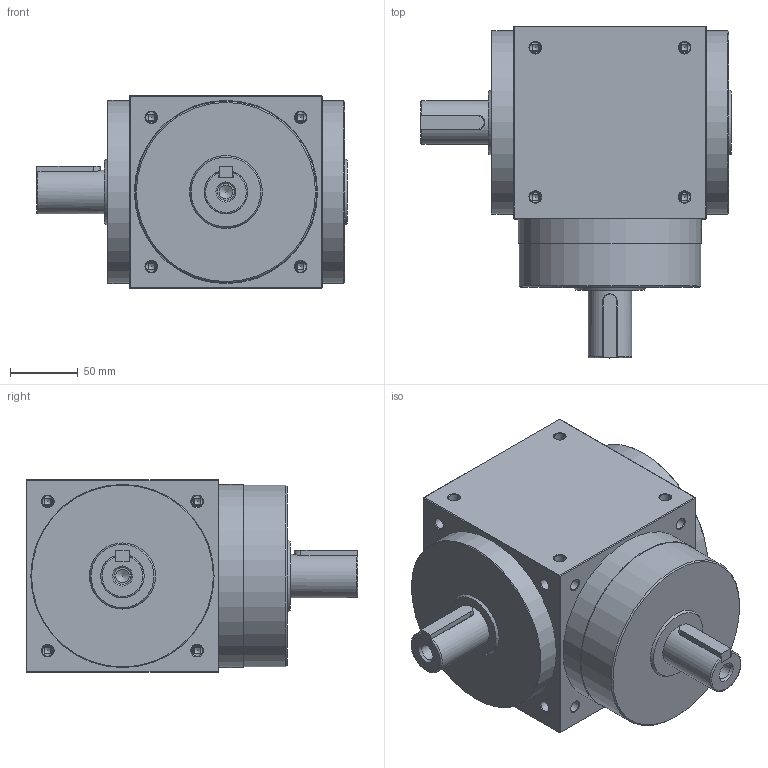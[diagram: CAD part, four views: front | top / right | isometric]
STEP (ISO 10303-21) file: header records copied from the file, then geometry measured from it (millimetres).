
FILE_DESCRIPTION((''),'2;1');
FILE_NAME('D:\유성\SBT 베벨기어박스\최종도면모음\3D\SBT142\SBT142LS001K.stp','2014-05-20T18:47:54',('nagyu'),(''),'Autodesk Inventor 2013','Autodesk Inventor 2013','');
FILE_SCHEMA(('AUTOMOTIVE_DESIGN { 1 0 10303 214 1 1 1 1 }'));
Length unit declared in the file: millimetre
Products named in the file (1): SBT142LS001K_Shrinkwrap_1
Bounding box: 229 x 244.5 x 142 mm (x, y, z)
Volume: 4118091.7 mm3; surface area: 177006.7 mm2
Topology: 1 solids, 1 shells, 357 faces, 827 edges, 451 vertices
Faces by surface type: cylinder 182, cone 110, plane 53, bspline 10, torus 2
Full cylindrical faces by diameter (mm): 8.376 x24, 10 x2, 10.106 x2, 12.5 x2, 32 x2, 134 x1, 135 x3
Entity records: 11326 total; most frequent: CARTESIAN_POINT 4220, DIRECTION 1606, ORIENTED_EDGE 1298, AXIS2_PLACEMENT_3D 749, EDGE_CURVE 649, EDGE_LOOP 466, VERTEX_POINT 371, FACE_OUTER_BOUND 357
